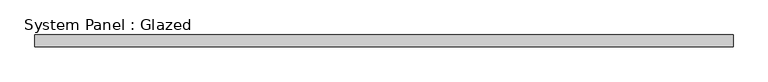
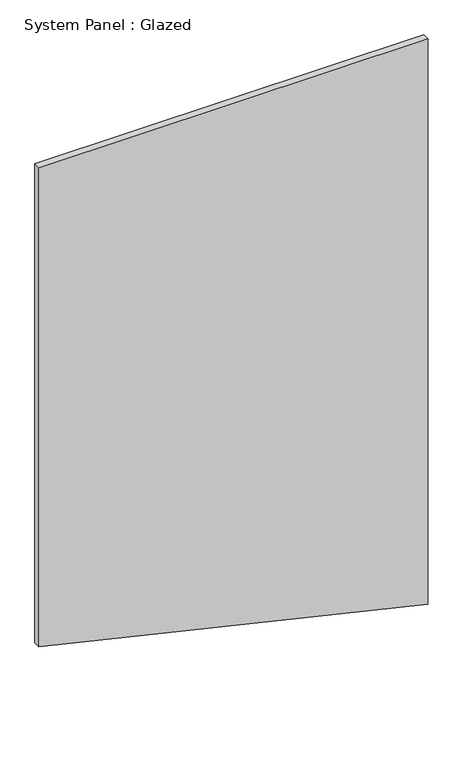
"""IFC4 building model written with IfcOpenShell, lengths in millimetres: plate geometry, System Panel : Glazed."""

from ifc_helpers import new_model, si_unit, frame, origin, place, context, project, spatial, polyline, outline, extrude, source, transform, mapped, element, save


def system_panel_glazed_db5261a2(model_context):
    return source(origin(), model_context, "Body", "SweptSolid", [
        extrude(outline(polyline([(345.7559661, -735.8695652), (0.0, 735.8695652), (2262.2860441, 735.8695652), (2262.2860441, -735.8695652), (345.7559661, -735.8695652)])), frame((0.0, 24.5, 0.0), z_axis=(0.0, 1.0, 0.0), x_axis=(0.0, 0.0, 1.0)), (0.0, 0.0, 1.0), 25.0),
    ])


if __name__ == "__main__":
    model = new_model("IFC4")
    model_context = context("Model", 3, world=origin())
    ifc_project = project(units=[si_unit("LENGTHUNIT", "METRE", prefix="MILLI")], contexts=[model_context])
    site = spatial("IfcSite", under=ifc_project)
    building = spatial("IfcBuilding", under=site)
    placement = place(None, origin())
    system_panel_glazed_shape = system_panel_glazed_db5261a2(model_context)
    element("IfcPlate", 1, ObjectType="System Panel : Glazed", at=placement, inside=building, context=model_context, shape_type="MappedRepresentation", body=[
        mapped(system_panel_glazed_shape, transform((0.0, 0.0, 0.0), x_axis=(1.0, 0.0, 0.0), y_axis=(0.0, 1.0, 0.0), z_axis=(0.0, 0.0, 1.0))),
    ])
    save(model, "model.ifc")
